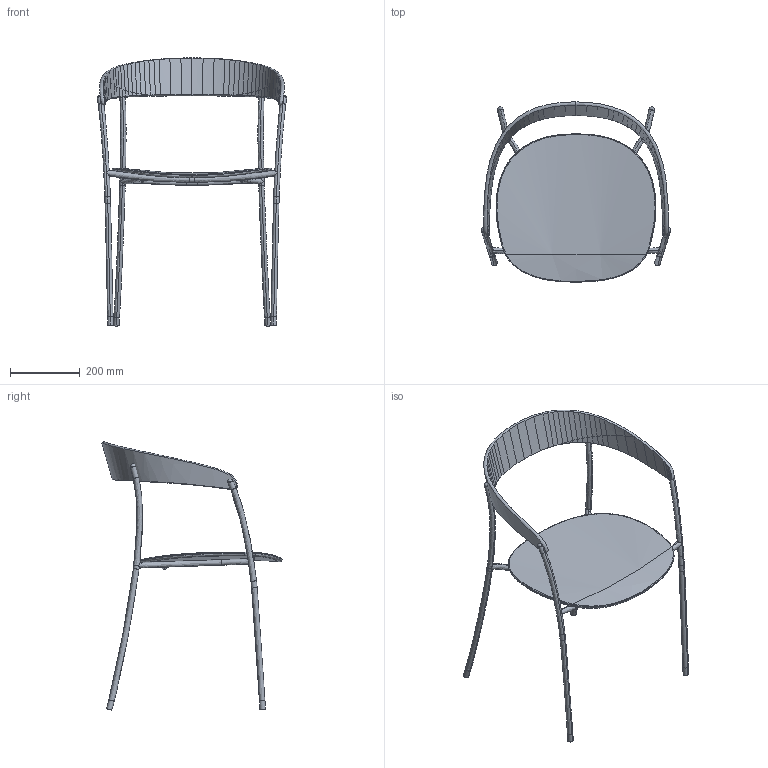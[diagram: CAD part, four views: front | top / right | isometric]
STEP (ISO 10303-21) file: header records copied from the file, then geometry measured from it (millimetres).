
FILE_DESCRIPTION(/* description */ (''),/* implementation_level */ '2;1');
FILE_NAME(/* name */ 'Missing Chair With Armrest',/* time_stamp */ '2020-08-28T23:57:05+02:00',/* author */ (''),/* organization */ (''),/* preprocessor_version */ 'ST-DEVELOPER v15',/* originating_system */ '',/* authorisation */ '');
FILE_SCHEMA (('AUTOMOTIVE_DESIGN'));
Length unit declared in the file: centimetre
Products named in the file (1): Document
Bounding box: 543.83 x 516.97 x 769.86 mm (x, y, z)
Volume: 3355345.2 mm3; surface area: 742639.6 mm2
Topology: 3 solids, 3 shells, 198 faces, 537 edges, 337 vertices
Faces by surface type: bspline 188, plane 10
Entity records: 23158 total; most frequent: CARTESIAN_POINT 20118, ORIENTED_EDGE 1058, EDGE_CURVE 529, B_SPLINE_CURVE_WITH_KNOTS 338, VERTEX_POINT 337, EDGE_LOOP 200, ADVANCED_FACE 198, FACE_OUTER_BOUND 198
